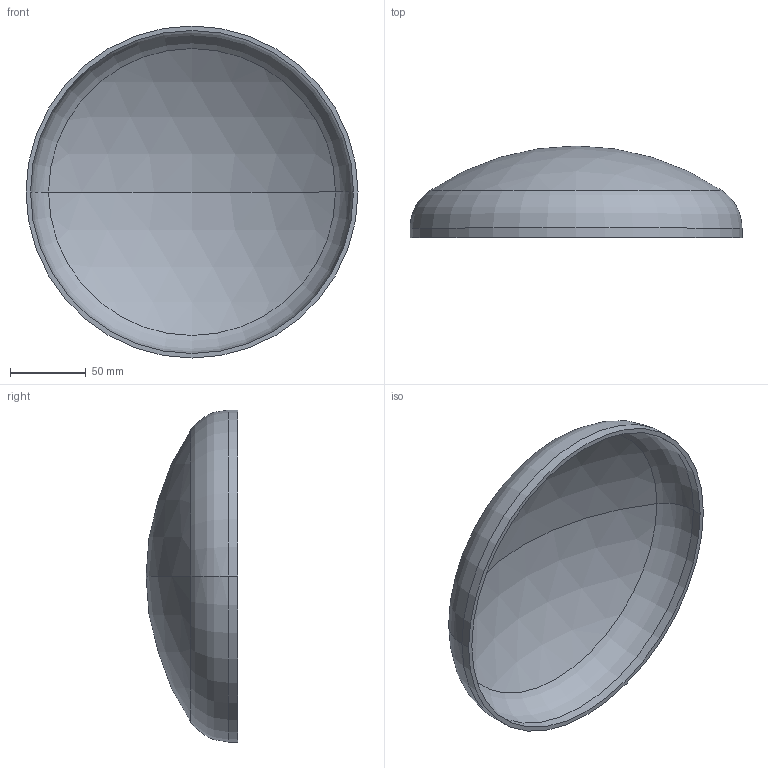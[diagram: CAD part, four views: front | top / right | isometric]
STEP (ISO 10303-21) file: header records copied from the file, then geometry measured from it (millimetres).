
FILE_DESCRIPTION (( 'STEP AP203' ), '1' );
FILE_NAME ('3D_R365_319.1x3_173372080.STEP', '2024-07-16T06:56:34', ( '' ), ( '' ), 'SwSTEP 2.0', 'SolidWorks 2024', '' );
FILE_SCHEMA (( 'CONFIG_CONTROL_DESIGN' ));
Length unit declared in the file: millimetre
Products named in the file (1): 3D_R365_319.1x3_173372080
Bounding box: 219.1 x 60.5 x 219.1 mm (x, y, z)
Volume: 161060.7 mm3; surface area: 109429.3 mm2
Topology: 1 solids, 1 shells, 13 faces, 24 edges, 14 vertices
Faces by surface type: sphere 4, torus 4, cylinder 4, plane 1
Entity records: 407 total; most frequent: DIRECTION 72, CARTESIAN_POINT 52, ORIENTED_EDGE 48, AXIS2_PLACEMENT_3D 34, EDGE_CURVE 24, CIRCLE 20, EDGE_LOOP 14, VERTEX_POINT 14
